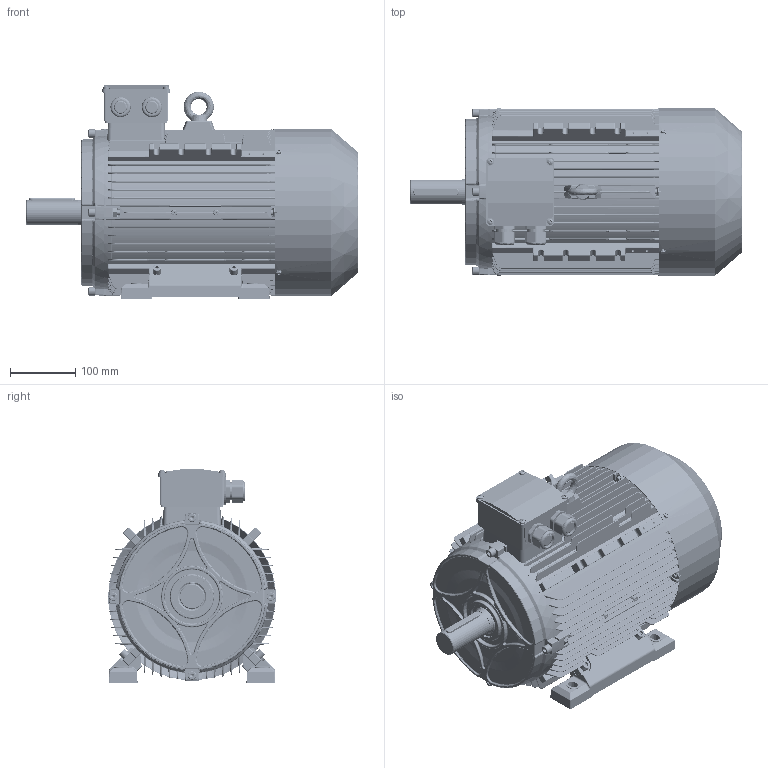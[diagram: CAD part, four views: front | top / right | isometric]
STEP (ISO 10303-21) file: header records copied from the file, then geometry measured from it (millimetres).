
FILE_DESCRIPTION (( 'STEP AP214' ), '1' );
FILE_NAME ('MX3-132M_B3.STEP', '2018-02-14T15:27:53', ( '' ), ( '' ), 'SwSTEP 2.0', 'SolidWorks 2012', '' );
FILE_SCHEMA (( 'AUTOMOTIVE_DESIGN' ));
Products named in the file (21): hexagon socket head cap screws gb_GB_FASTENER_SCREWS_HSHCS M8X30-N; Fuﾟ-132MX2; cross recessed pan head screws gb_GB_CROSS_SCREWS_TYPE1 M5X12-12  H type-N_1; hexagon flange head tapping screws gb_GB_SQUARE_AND_HEXAGON_TYPE137 ST4.2X9.5 C-N_1; circlips for shaft--type a large gb_GB_CONNECTING_PIECE_RING_RRA 28_1; hexagon socket head cap screws gb_GB_FASTENER_SCREWS_HSHCS M8X40-N_1; hex nuts, style 1-grades ab gb_GB_FASTENER_NUT_SNAB1 M8-N_1; spring lock washers--normal type gb_GB_FASTENER_WASHER_SW 8_1; eyebolts gb_GB_FASTENER_SCREWS_FRS M10-N_1; plain parallel keys_GB_CONNECTING_PIECE_KEYS_CSK 10X70_1; ﾋ-ﾀﾔ40X58X7; -戌呲25; 132〩仁佞怔; 132〩仁佞蹉峔; 132ÀþiÍ; 132 瞬++-4; deep groove ball bearings gb_Rolling bearings 6308 GB 276-94_1; 132M 俓_1; 132B3ﾂ-ｩﾃ; 132M B5+ｷ+ﾃ; MX3-132M_B3
Assembly tree (62 placements, depth 2):
  MX3-132M_B3
    132M B5+ｷ+ﾃ
    132B3ﾂ-ｩﾃ  x2
    132M 俓_1
    deep groove ball bearings gb_Rolling bearings 6308 GB 276-94_1  x2
    132 瞬++-4
    132ÀþiÍ
    132〩仁佞蹉峔
    132〩仁佞怔
    -戌呲25  x2
    ﾋ-ﾀﾔ40X58X7
    plain parallel keys_GB_CONNECTING_PIECE_KEYS_CSK 10X70_1
    eyebolts gb_GB_FASTENER_SCREWS_FRS M10-N_1
    spring lock washers--normal type gb_GB_FASTENER_WASHER_SW 8_1  x12
    hex nuts, style 1-grades ab gb_GB_FASTENER_NUT_SNAB1 M8-N_1  x11
    hexagon socket head cap screws gb_GB_FASTENER_SCREWS_HSHCS M8X40-N_1  x9
    circlips for shaft--type a large gb_GB_CONNECTING_PIECE_RING_RRA 28_1
    hexagon flange head tapping screws gb_GB_SQUARE_AND_HEXAGON_TYPE137 ST4.2X9.5 C-N_1  x4
    cross recessed pan head screws gb_GB_CROSS_SCREWS_TYPE1 M5X12-12  H type-N_1  x4
    Fuﾟ-132MX2  x2
    hexagon socket head cap screws gb_GB_FASTENER_SCREWS_HSHCS M8X30-N  x4
Bounding box: 509.04 x 257.01 x 327 mm (x, y, z)
Volume: 4069621.7 mm3; surface area: 1909143.4 mm2
Topology: 63 solids, 65 shells, 8506 faces, 21809 edges, 13291 vertices
Faces by surface type: plane 2732, bspline 2363, cylinder 2252, cone 624, torus 397, sphere 138
Entity records: 263305 total; most frequent: CARTESIAN_POINT 120766, ORIENTED_EDGE 32890, DIRECTION 24623, EDGE_CURVE 16445, VERTEX_POINT 10136, AXIS2_PLACEMENT_3D 8760, LINE 7103, VECTOR 7103
